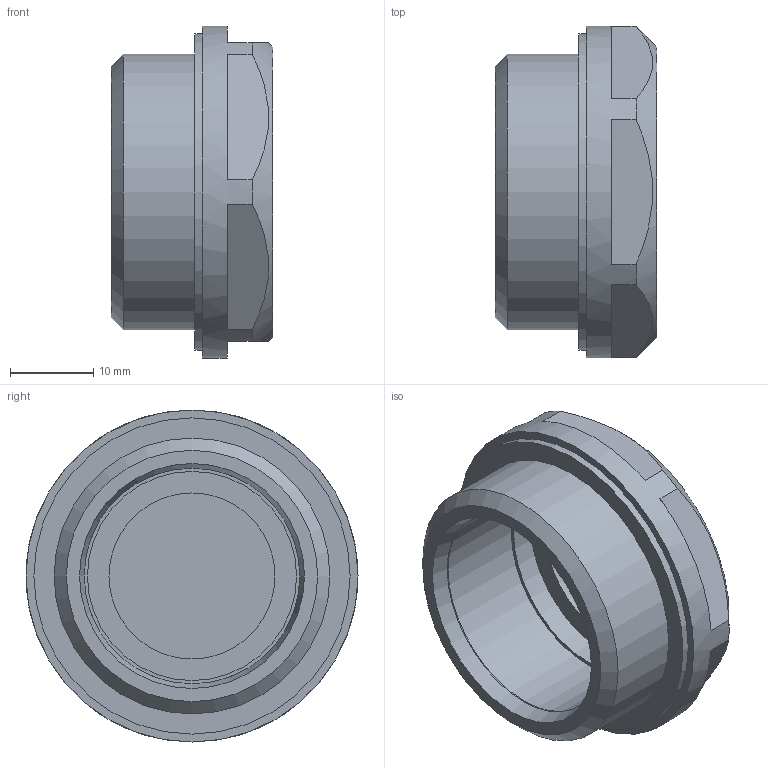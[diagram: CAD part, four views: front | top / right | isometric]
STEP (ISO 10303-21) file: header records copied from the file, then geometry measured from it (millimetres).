
FILE_DESCRIPTION( ( 'STEP AP203' ), '1' );
FILE_NAME( 'C:/Temp/Ganter_Step_05_03_2020/data/3_5/gn_7403/gn_7403_al/Breather strainer GN 7403-AL-G1-100.stp', '2020-03-12T13:43:00', ( 'License CC BY-ND 4.0' ), ( 'CADENAS' ), ' ', 'PARTsolutions', ' ' );
FILE_SCHEMA( ( 'CONFIG_CONTROL_DESIGN' ) );
Length unit declared in the file: millimetre
Products named in the file (1): _Breather strainer GN 7403-AL-G1-100
Bounding box: 19.5 x 40 x 40 mm (x, y, z)
Volume: 9631.9 mm3; surface area: 5968.5 mm2
Topology: 1 solids, 1 shells, 32 faces, 69 edges, 45 vertices
Faces by surface type: plane 20, cylinder 7, cone 4, torus 1
Full cylindrical faces by diameter (mm): 20 x1, 24 x1, 25.2 x1, 26 x1, 33.249 x1, 38.1 x1, 40 x1
Entity records: 910 total; most frequent: CARTESIAN_POINT 215, DIRECTION 144, ORIENTED_EDGE 108, AXIS2_PLACEMENT_3D 63, EDGE_CURVE 54, EDGE_LOOP 50, VERTEX_POINT 42, FACE_OUTER_BOUND 40
